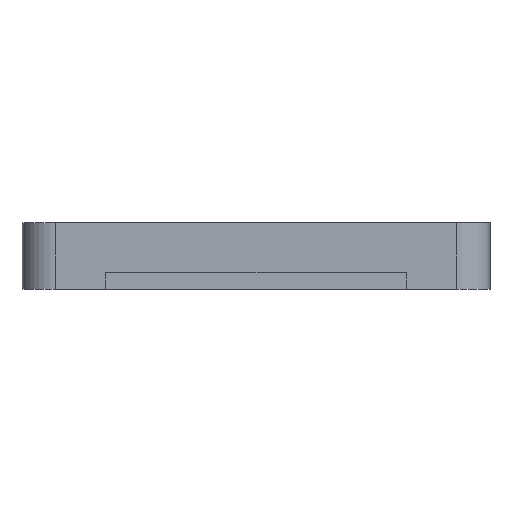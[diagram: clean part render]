
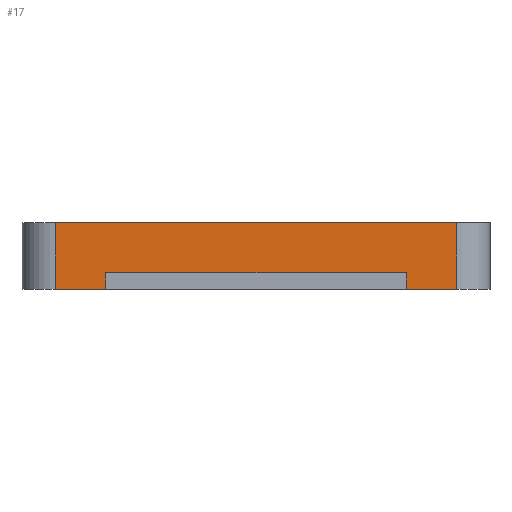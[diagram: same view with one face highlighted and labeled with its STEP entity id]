
A CAD part, left-side view. The second image highlights one B-rep face of the part: STEP entity #17.
In plain terms, the highlighted planar face has unit normal (-1, 0, 0).
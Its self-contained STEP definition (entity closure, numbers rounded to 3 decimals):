
#17 = ADVANCED_FACE('',(#18),#32,.F.);
#18 = FACE_BOUND('',#19,.F.);
#19 = EDGE_LOOP('',(#20,#55,#83,#111,#139,#167,#190,#218));
#20 = ORIENTED_EDGE('',*,*,#21,.F.);
#21 = EDGE_CURVE('',#22,#24,#26,.T.);
#22 = VERTEX_POINT('',#23);
#23 = CARTESIAN_POINT('',(120.,99.,13.));
#24 = VERTEX_POINT('',#25);
#25 = CARTESIAN_POINT('',(120.,99.,21.));
#26 = SURFACE_CURVE('',#27,(#31,#43),.PCURVE_S1.);
#27 = LINE('',#28,#29);
#28 = CARTESIAN_POINT('',(120.,99.,13.));
#29 = VECTOR('',#30,1.);
#30 = DIRECTION('',(0.,0.,1.));
#31 = PCURVE('',#32,#37);
#32 = PLANE('',#33);
#33 = AXIS2_PLACEMENT_3D('',#34,#35,#36);
#34 = CARTESIAN_POINT('',(120.,95.,13.));
#35 = DIRECTION('',(1.,0.,0.));
#36 = DIRECTION('',(0.,0.,1.));
#37 = DEFINITIONAL_REPRESENTATION('',(#38),#42);
#38 = LINE('',#39,#40);
#39 = CARTESIAN_POINT('',(0.,-4.));
#40 = VECTOR('',#41,1.);
#41 = DIRECTION('',(1.,0.));
#42 = ( GEOMETRIC_REPRESENTATION_CONTEXT(2) 
PARAMETRIC_REPRESENTATION_CONTEXT() REPRESENTATION_CONTEXT('2D SPACE',''
  ) );
#43 = PCURVE('',#44,#49);
#44 = CYLINDRICAL_SURFACE('',#45,4.);
#45 = AXIS2_PLACEMENT_3D('',#46,#47,#48);
#46 = CARTESIAN_POINT('',(124.,99.,13.));
#47 = DIRECTION('',(0.,0.,1.));
#48 = DIRECTION('',(-1.,-0.,0.));
#49 = DEFINITIONAL_REPRESENTATION('',(#50),#54);
#50 = LINE('',#51,#52);
#51 = CARTESIAN_POINT('',(0.,0.));
#52 = VECTOR('',#53,1.);
#53 = DIRECTION('',(0.,1.));
#54 = ( GEOMETRIC_REPRESENTATION_CONTEXT(2) 
PARAMETRIC_REPRESENTATION_CONTEXT() REPRESENTATION_CONTEXT('2D SPACE',''
  ) );
#55 = ORIENTED_EDGE('',*,*,#56,.T.);
#56 = EDGE_CURVE('',#22,#57,#59,.T.);
#57 = VERTEX_POINT('',#58);
#58 = CARTESIAN_POINT('',(120.,105.,13.));
#59 = SURFACE_CURVE('',#60,(#64,#71),.PCURVE_S1.);
#60 = LINE('',#61,#62);
#61 = CARTESIAN_POINT('',(120.,95.,13.));
#62 = VECTOR('',#63,1.);
#63 = DIRECTION('',(0.,1.,0.));
#64 = PCURVE('',#32,#65);
#65 = DEFINITIONAL_REPRESENTATION('',(#66),#70);
#66 = LINE('',#67,#68);
#67 = CARTESIAN_POINT('',(0.,0.));
#68 = VECTOR('',#69,1.);
#69 = DIRECTION('',(0.,-1.));
#70 = ( GEOMETRIC_REPRESENTATION_CONTEXT(2) 
PARAMETRIC_REPRESENTATION_CONTEXT() REPRESENTATION_CONTEXT('2D SPACE',''
  ) );
#71 = PCURVE('',#72,#77);
#72 = PLANE('',#73);
#73 = AXIS2_PLACEMENT_3D('',#74,#75,#76);
#74 = CARTESIAN_POINT('',(120.,95.,13.));
#75 = DIRECTION('',(0.,0.,1.));
#76 = DIRECTION('',(1.,0.,0.));
#77 = DEFINITIONAL_REPRESENTATION('',(#78),#82);
#78 = LINE('',#79,#80);
#79 = CARTESIAN_POINT('',(0.,0.));
#80 = VECTOR('',#81,1.);
#81 = DIRECTION('',(0.,1.));
#82 = ( GEOMETRIC_REPRESENTATION_CONTEXT(2) 
PARAMETRIC_REPRESENTATION_CONTEXT() REPRESENTATION_CONTEXT('2D SPACE',''
  ) );
#83 = ORIENTED_EDGE('',*,*,#84,.T.);
#84 = EDGE_CURVE('',#57,#85,#87,.T.);
#85 = VERTEX_POINT('',#86);
#86 = CARTESIAN_POINT('',(120.,105.,15.));
#87 = SURFACE_CURVE('',#88,(#92,#99),.PCURVE_S1.);
#88 = LINE('',#89,#90);
#89 = CARTESIAN_POINT('',(120.,105.,13.));
#90 = VECTOR('',#91,1.);
#91 = DIRECTION('',(0.,0.,1.));
#92 = PCURVE('',#32,#93);
#93 = DEFINITIONAL_REPRESENTATION('',(#94),#98);
#94 = LINE('',#95,#96);
#95 = CARTESIAN_POINT('',(0.,-10.));
#96 = VECTOR('',#97,1.);
#97 = DIRECTION('',(1.,0.));
#98 = ( GEOMETRIC_REPRESENTATION_CONTEXT(2) 
PARAMETRIC_REPRESENTATION_CONTEXT() REPRESENTATION_CONTEXT('2D SPACE',''
  ) );
#99 = PCURVE('',#100,#105);
#100 = PLANE('',#101);
#101 = AXIS2_PLACEMENT_3D('',#102,#103,#104);
#102 = CARTESIAN_POINT('',(112.,105.,13.));
#103 = DIRECTION('',(0.,1.,0.));
#104 = DIRECTION('',(0.,0.,1.));
#105 = DEFINITIONAL_REPRESENTATION('',(#106),#110);
#106 = LINE('',#107,#108);
#107 = CARTESIAN_POINT('',(0.,8.));
#108 = VECTOR('',#109,1.);
#109 = DIRECTION('',(1.,0.));
#110 = ( GEOMETRIC_REPRESENTATION_CONTEXT(2) 
PARAMETRIC_REPRESENTATION_CONTEXT() REPRESENTATION_CONTEXT('2D SPACE',''
  ) );
#111 = ORIENTED_EDGE('',*,*,#112,.T.);
#112 = EDGE_CURVE('',#85,#113,#115,.T.);
#113 = VERTEX_POINT('',#114);
#114 = CARTESIAN_POINT('',(120.,141.,15.));
#115 = SURFACE_CURVE('',#116,(#120,#127),.PCURVE_S1.);
#116 = LINE('',#117,#118);
#117 = CARTESIAN_POINT('',(120.,105.,15.));
#118 = VECTOR('',#119,1.);
#119 = DIRECTION('',(0.,1.,0.));
#120 = PCURVE('',#32,#121);
#121 = DEFINITIONAL_REPRESENTATION('',(#122),#126);
#122 = LINE('',#123,#124);
#123 = CARTESIAN_POINT('',(2.,-10.));
#124 = VECTOR('',#125,1.);
#125 = DIRECTION('',(0.,-1.));
#126 = ( GEOMETRIC_REPRESENTATION_CONTEXT(2) 
PARAMETRIC_REPRESENTATION_CONTEXT() REPRESENTATION_CONTEXT('2D SPACE',''
  ) );
#127 = PCURVE('',#128,#133);
#128 = PLANE('',#129);
#129 = AXIS2_PLACEMENT_3D('',#130,#131,#132);
#130 = CARTESIAN_POINT('',(112.,105.,15.));
#131 = DIRECTION('',(0.,0.,1.));
#132 = DIRECTION('',(1.,0.,0.));
#133 = DEFINITIONAL_REPRESENTATION('',(#134),#138);
#134 = LINE('',#135,#136);
#135 = CARTESIAN_POINT('',(8.,0.));
#136 = VECTOR('',#137,1.);
#137 = DIRECTION('',(0.,1.));
#138 = ( GEOMETRIC_REPRESENTATION_CONTEXT(2) 
PARAMETRIC_REPRESENTATION_CONTEXT() REPRESENTATION_CONTEXT('2D SPACE',''
  ) );
#139 = ORIENTED_EDGE('',*,*,#140,.F.);
#140 = EDGE_CURVE('',#141,#113,#143,.T.);
#141 = VERTEX_POINT('',#142);
#142 = CARTESIAN_POINT('',(120.,141.,13.));
#143 = SURFACE_CURVE('',#144,(#148,#155),.PCURVE_S1.);
#144 = LINE('',#145,#146);
#145 = CARTESIAN_POINT('',(120.,141.,13.));
#146 = VECTOR('',#147,1.);
#147 = DIRECTION('',(0.,0.,1.));
#148 = PCURVE('',#32,#149);
#149 = DEFINITIONAL_REPRESENTATION('',(#150),#154);
#150 = LINE('',#151,#152);
#151 = CARTESIAN_POINT('',(0.,-46.));
#152 = VECTOR('',#153,1.);
#153 = DIRECTION('',(1.,0.));
#154 = ( GEOMETRIC_REPRESENTATION_CONTEXT(2) 
PARAMETRIC_REPRESENTATION_CONTEXT() REPRESENTATION_CONTEXT('2D SPACE',''
  ) );
#155 = PCURVE('',#156,#161);
#156 = PLANE('',#157);
#157 = AXIS2_PLACEMENT_3D('',#158,#159,#160);
#158 = CARTESIAN_POINT('',(112.,141.,13.));
#159 = DIRECTION('',(0.,1.,0.));
#160 = DIRECTION('',(0.,0.,1.));
#161 = DEFINITIONAL_REPRESENTATION('',(#162),#166);
#162 = LINE('',#163,#164);
#163 = CARTESIAN_POINT('',(0.,8.));
#164 = VECTOR('',#165,1.);
#165 = DIRECTION('',(1.,0.));
#166 = ( GEOMETRIC_REPRESENTATION_CONTEXT(2) 
PARAMETRIC_REPRESENTATION_CONTEXT() REPRESENTATION_CONTEXT('2D SPACE',''
  ) );
#167 = ORIENTED_EDGE('',*,*,#168,.T.);
#168 = EDGE_CURVE('',#141,#169,#171,.T.);
#169 = VERTEX_POINT('',#170);
#170 = CARTESIAN_POINT('',(120.,147.,13.));
#171 = SURFACE_CURVE('',#172,(#176,#183),.PCURVE_S1.);
#172 = LINE('',#173,#174);
#173 = CARTESIAN_POINT('',(120.,95.,13.));
#174 = VECTOR('',#175,1.);
#175 = DIRECTION('',(0.,1.,0.));
#176 = PCURVE('',#32,#177);
#177 = DEFINITIONAL_REPRESENTATION('',(#178),#182);
#178 = LINE('',#179,#180);
#179 = CARTESIAN_POINT('',(0.,0.));
#180 = VECTOR('',#181,1.);
#181 = DIRECTION('',(0.,-1.));
#182 = ( GEOMETRIC_REPRESENTATION_CONTEXT(2) 
PARAMETRIC_REPRESENTATION_CONTEXT() REPRESENTATION_CONTEXT('2D SPACE',''
  ) );
#183 = PCURVE('',#72,#184);
#184 = DEFINITIONAL_REPRESENTATION('',(#185),#189);
#185 = LINE('',#186,#187);
#186 = CARTESIAN_POINT('',(0.,0.));
#187 = VECTOR('',#188,1.);
#188 = DIRECTION('',(0.,1.));
#189 = ( GEOMETRIC_REPRESENTATION_CONTEXT(2) 
PARAMETRIC_REPRESENTATION_CONTEXT() REPRESENTATION_CONTEXT('2D SPACE',''
  ) );
#190 = ORIENTED_EDGE('',*,*,#191,.F.);
#191 = EDGE_CURVE('',#192,#169,#194,.T.);
#192 = VERTEX_POINT('',#193);
#193 = CARTESIAN_POINT('',(120.,147.,21.));
#194 = SURFACE_CURVE('',#195,(#199,#206),.PCURVE_S1.);
#195 = LINE('',#196,#197);
#196 = CARTESIAN_POINT('',(120.,147.,21.));
#197 = VECTOR('',#198,1.);
#198 = DIRECTION('',(0.,0.,-1.));
#199 = PCURVE('',#32,#200);
#200 = DEFINITIONAL_REPRESENTATION('',(#201),#205);
#201 = LINE('',#202,#203);
#202 = CARTESIAN_POINT('',(8.,-52.));
#203 = VECTOR('',#204,1.);
#204 = DIRECTION('',(-1.,0.));
#205 = ( GEOMETRIC_REPRESENTATION_CONTEXT(2) 
PARAMETRIC_REPRESENTATION_CONTEXT() REPRESENTATION_CONTEXT('2D SPACE',''
  ) );
#206 = PCURVE('',#207,#212);
#207 = CYLINDRICAL_SURFACE('',#208,4.);
#208 = AXIS2_PLACEMENT_3D('',#209,#210,#211);
#209 = CARTESIAN_POINT('',(124.,147.,13.));
#210 = DIRECTION('',(0.,0.,1.));
#211 = DIRECTION('',(-1.,-0.,0.));
#212 = DEFINITIONAL_REPRESENTATION('',(#213),#217);
#213 = LINE('',#214,#215);
#214 = CARTESIAN_POINT('',(-0.,8.));
#215 = VECTOR('',#216,1.);
#216 = DIRECTION('',(-0.,-1.));
#217 = ( GEOMETRIC_REPRESENTATION_CONTEXT(2) 
PARAMETRIC_REPRESENTATION_CONTEXT() REPRESENTATION_CONTEXT('2D SPACE',''
  ) );
#218 = ORIENTED_EDGE('',*,*,#219,.F.);
#219 = EDGE_CURVE('',#24,#192,#220,.T.);
#220 = SURFACE_CURVE('',#221,(#225,#232),.PCURVE_S1.);
#221 = LINE('',#222,#223);
#222 = CARTESIAN_POINT('',(120.,95.,21.));
#223 = VECTOR('',#224,1.);
#224 = DIRECTION('',(0.,1.,0.));
#225 = PCURVE('',#32,#226);
#226 = DEFINITIONAL_REPRESENTATION('',(#227),#231);
#227 = LINE('',#228,#229);
#228 = CARTESIAN_POINT('',(8.,0.));
#229 = VECTOR('',#230,1.);
#230 = DIRECTION('',(0.,-1.));
#231 = ( GEOMETRIC_REPRESENTATION_CONTEXT(2) 
PARAMETRIC_REPRESENTATION_CONTEXT() REPRESENTATION_CONTEXT('2D SPACE',''
  ) );
#232 = PCURVE('',#233,#238);
#233 = PLANE('',#234);
#234 = AXIS2_PLACEMENT_3D('',#235,#236,#237);
#235 = CARTESIAN_POINT('',(120.,95.,21.));
#236 = DIRECTION('',(0.,0.,1.));
#237 = DIRECTION('',(1.,0.,0.));
#238 = DEFINITIONAL_REPRESENTATION('',(#239),#243);
#239 = LINE('',#240,#241);
#240 = CARTESIAN_POINT('',(0.,0.));
#241 = VECTOR('',#242,1.);
#242 = DIRECTION('',(0.,1.));
#243 = ( GEOMETRIC_REPRESENTATION_CONTEXT(2) 
PARAMETRIC_REPRESENTATION_CONTEXT() REPRESENTATION_CONTEXT('2D SPACE',''
  ) );
